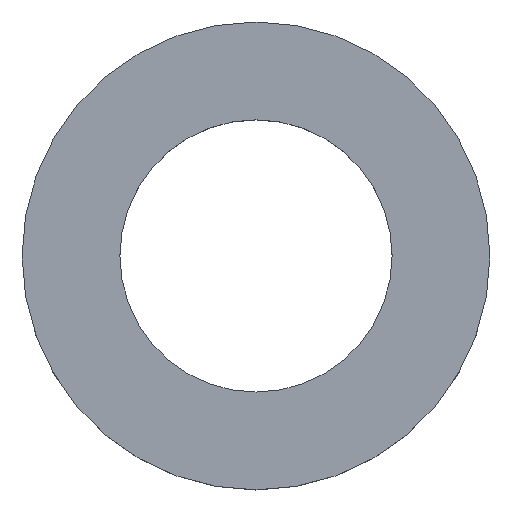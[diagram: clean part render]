
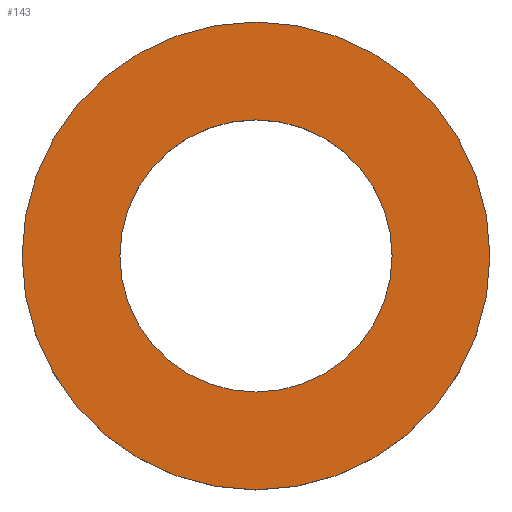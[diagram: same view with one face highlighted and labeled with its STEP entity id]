
A CAD part, top view. The second image highlights one B-rep face of the part: STEP entity #143.
In plain terms, the highlighted planar face has unit normal (0, 0, 1).
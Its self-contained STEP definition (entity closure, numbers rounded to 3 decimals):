
#42=CARTESIAN_POINT('Vertex',(0.,5.5,1.6)) ;
#56=CARTESIAN_POINT('Vertex',(0.,-5.5,1.6)) ;
#59=CARTESIAN_POINT('Axis2P3D Location',(0.,0.,1.6)) ;
#76=CARTESIAN_POINT('Axis2P3D Location',(0.,0.,1.6)) ;
#116=CARTESIAN_POINT('Axis2P3D Location',(0.,0.,1.6)) ;
#125=CARTESIAN_POINT('Axis2P3D Location',(0.,0.,1.6)) ;
#129=CARTESIAN_POINT('Vertex',(0.,3.2,1.6)) ;
#131=CARTESIAN_POINT('Vertex',(0.,-3.2,1.6)) ;
#134=CARTESIAN_POINT('Axis2P3D Location',(0.,0.,1.6)) ;
#60=DIRECTION('Axis2P3D Direction',(0.,-0.,1.)) ;
#77=DIRECTION('Axis2P3D Direction',(0.,-0.,1.)) ;
#117=DIRECTION('Axis2P3D Direction',(0.,-0.,1.)) ;
#118=DIRECTION('Axis2P3D XDirection',(0.,1.,0.)) ;
#126=DIRECTION('Axis2P3D Direction',(0.,-0.,1.)) ;
#135=DIRECTION('Axis2P3D Direction',(0.,-0.,1.)) ;
#61=AXIS2_PLACEMENT_3D('Circle Axis2P3D',#59,#60,$) ;
#78=AXIS2_PLACEMENT_3D('Circle Axis2P3D',#76,#77,$) ;
#119=AXIS2_PLACEMENT_3D('Plane Axis2P3D',#116,#117,#118) ;
#127=AXIS2_PLACEMENT_3D('Circle Axis2P3D',#125,#126,$) ;
#136=AXIS2_PLACEMENT_3D('Circle Axis2P3D',#134,#135,$) ;
#62=CIRCLE('generated circle',#61,5.5) ;
#79=CIRCLE('generated circle',#78,5.5) ;
#128=CIRCLE('generated circle',#127,3.2) ;
#137=CIRCLE('generated circle',#136,3.2) ;
#120=PLANE('',#119) ;
#142=FACE_BOUND('',#139,.T.) ;
#63=EDGE_CURVE('',#43,#57,#62,.T.) ;
#80=EDGE_CURVE('',#57,#43,#79,.T.) ;
#133=EDGE_CURVE('',#130,#132,#128,.T.) ;
#138=EDGE_CURVE('',#132,#130,#137,.T.) ;
#122=ORIENTED_EDGE('',*,*,#63,.T.) ;
#123=ORIENTED_EDGE('',*,*,#80,.T.) ;
#140=ORIENTED_EDGE('',*,*,#133,.F.) ;
#141=ORIENTED_EDGE('',*,*,#138,.F.) ;
#121=EDGE_LOOP('',(#122,#123)) ;
#139=EDGE_LOOP('',(#140,#141)) ;
#43=VERTEX_POINT('',#42) ;
#57=VERTEX_POINT('',#56) ;
#130=VERTEX_POINT('',#129) ;
#132=VERTEX_POINT('',#131) ;
#143=ADVANCED_FACE('Body.2',(#124,#142),#120,.T.) ;
#124=FACE_OUTER_BOUND('',#121,.T.) ;
